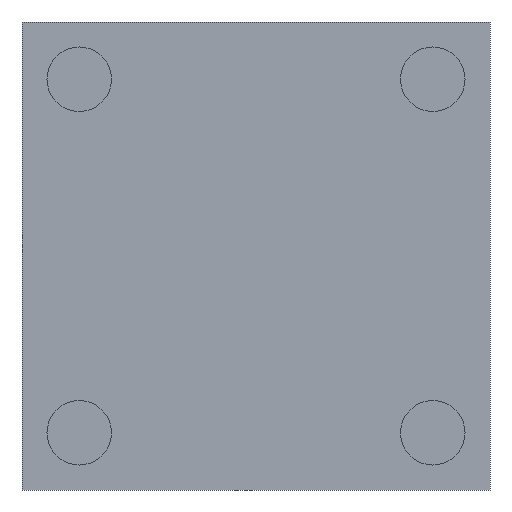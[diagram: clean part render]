
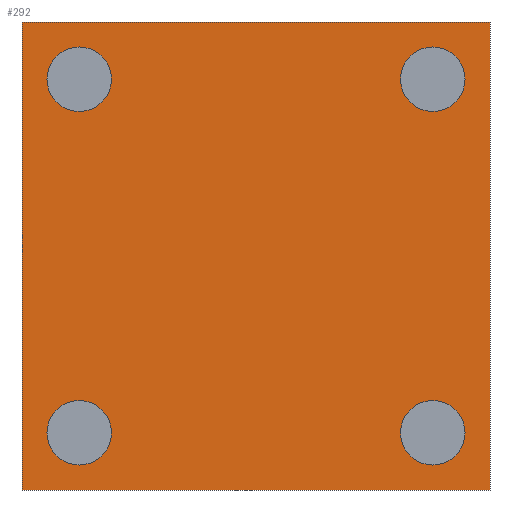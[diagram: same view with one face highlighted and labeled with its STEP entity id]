
A CAD part, front view. The second image highlights one B-rep face of the part: STEP entity #292.
In plain terms, the highlighted planar face has unit normal (0, -1, 0).
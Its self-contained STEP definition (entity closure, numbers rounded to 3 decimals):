
#1=CARTESIAN_POINT('',(17.,0.,17.));
#2=DIRECTION('',(0.,1.,0.));
#3=DIRECTION('',(-1.,0.,0.));
#4=AXIS2_PLACEMENT_3D('',#1,#2,#3);
#6=CARTESIAN_POINT('',(17.,0.,17.));
#7=DIRECTION('',(0.,1.,0.));
#8=DIRECTION('',(1.,0.,0.));
#9=AXIS2_PLACEMENT_3D('',#6,#7,#8);
#11=CARTESIAN_POINT('',(-17.,0.,17.));
#12=DIRECTION('',(0.,-1.,0.));
#13=DIRECTION('',(1.,0.,0.));
#14=AXIS2_PLACEMENT_3D('',#11,#12,#13);
#16=CARTESIAN_POINT('',(-17.,0.,17.));
#17=DIRECTION('',(0.,-1.,0.));
#18=DIRECTION('',(-1.,0.,0.));
#19=AXIS2_PLACEMENT_3D('',#16,#17,#18);
#21=CARTESIAN_POINT('',(-17.,0.,-17.));
#22=DIRECTION('',(0.,1.,0.));
#23=DIRECTION('',(1.,0.,0.));
#24=AXIS2_PLACEMENT_3D('',#21,#22,#23);
#26=CARTESIAN_POINT('',(-17.,0.,-17.));
#27=DIRECTION('',(0.,1.,0.));
#28=DIRECTION('',(-1.,0.,0.));
#29=AXIS2_PLACEMENT_3D('',#26,#27,#28);
#31=CARTESIAN_POINT('',(17.,0.,-17.));
#32=DIRECTION('',(0.,-1.,0.));
#33=DIRECTION('',(-1.,0.,0.));
#34=AXIS2_PLACEMENT_3D('',#31,#32,#33);
#36=CARTESIAN_POINT('',(17.,0.,-17.));
#37=DIRECTION('',(0.,-1.,0.));
#38=DIRECTION('',(1.,0.,0.));
#39=AXIS2_PLACEMENT_3D('',#36,#37,#38);
#132=CARTESIAN_POINT('',(-22.5,0.,22.5));
#134=DIRECTION('',(0.,0.,-1.));
#135=VECTOR('',#134,45.);
#136=CARTESIAN_POINT('',(-22.5,0.,22.5));
#137=LINE('',#136,#135);
#153=CARTESIAN_POINT('',(-22.5,0.,-22.5));
#155=DIRECTION('',(0.,0.,1.));
#156=VECTOR('',#155,45.);
#157=CARTESIAN_POINT('',(22.5,0.,-22.5));
#158=LINE('',#157,#156);
#174=CARTESIAN_POINT('',(22.5,0.,22.5));
#195=CARTESIAN_POINT('',(22.5,0.,-22.5));
#201=DIRECTION('',(1.,0.,0.));
#202=VECTOR('',#201,45.);
#203=CARTESIAN_POINT('',(-22.5,0.,22.5));
#204=LINE('',#203,#202);
#209=DIRECTION('',(1.,0.,0.));
#210=VECTOR('',#209,45.);
#211=CARTESIAN_POINT('',(-22.5,0.,-22.5));
#212=LINE('',#211,#210);
#214=VERTEX_POINT('',#195);
#219=CARTESIAN_POINT('',(13.9,0.,-17.));
#220=CARTESIAN_POINT('',(20.1,0.,-17.));
#221=VERTEX_POINT('',#219);
#222=VERTEX_POINT('',#220);
#224=VERTEX_POINT('',#153);
#229=CARTESIAN_POINT('',(-13.9,0.,-17.));
#230=CARTESIAN_POINT('',(-20.1,0.,-17.));
#231=VERTEX_POINT('',#229);
#232=VERTEX_POINT('',#230);
#234=VERTEX_POINT('',#174);
#239=CARTESIAN_POINT('',(13.9,0.,17.));
#240=CARTESIAN_POINT('',(20.1,0.,17.));
#241=VERTEX_POINT('',#239);
#242=VERTEX_POINT('',#240);
#244=VERTEX_POINT('',#132);
#249=CARTESIAN_POINT('',(-13.9,0.,17.));
#250=CARTESIAN_POINT('',(-20.1,0.,17.));
#251=VERTEX_POINT('',#249);
#252=VERTEX_POINT('',#250);
#253=CARTESIAN_POINT('',(0.,0.,0.));
#254=DIRECTION('',(0.,1.,0.));
#255=DIRECTION('',(1.,0.,0.));
#256=AXIS2_PLACEMENT_3D('',#253,#254,#255);
#257=PLANE('',#256);
#259=ORIENTED_EDGE('',*,*,#258,.F.);
#261=ORIENTED_EDGE('',*,*,#260,.T.);
#263=ORIENTED_EDGE('',*,*,#262,.F.);
#265=ORIENTED_EDGE('',*,*,#264,.F.);
#266=EDGE_LOOP('',(#259,#261,#263,#265));
#267=FACE_OUTER_BOUND('',#266,.F.);
#269=ORIENTED_EDGE('',*,*,#268,.F.);
#271=ORIENTED_EDGE('',*,*,#270,.F.);
#272=EDGE_LOOP('',(#269,#271));
#273=FACE_BOUND('',#272,.F.);
#275=ORIENTED_EDGE('',*,*,#274,.T.);
#277=ORIENTED_EDGE('',*,*,#276,.T.);
#278=EDGE_LOOP('',(#275,#277));
#279=FACE_BOUND('',#278,.F.);
#281=ORIENTED_EDGE('',*,*,#280,.F.);
#283=ORIENTED_EDGE('',*,*,#282,.F.);
#284=EDGE_LOOP('',(#281,#283));
#285=FACE_BOUND('',#284,.F.);
#287=ORIENTED_EDGE('',*,*,#286,.T.);
#289=ORIENTED_EDGE('',*,*,#288,.T.);
#290=EDGE_LOOP('',(#287,#289));
#291=FACE_BOUND('',#290,.F.);
#292=ADVANCED_FACE('',(#267,#273,#279,#285,#291),#257,.F.);
#5=CIRCLE('',#4,3.1);
#10=CIRCLE('',#9,3.1);
#15=CIRCLE('',#14,3.1);
#20=CIRCLE('',#19,3.1);
#25=CIRCLE('',#24,3.1);
#30=CIRCLE('',#29,3.1);
#35=CIRCLE('',#34,3.1);
#40=CIRCLE('',#39,3.1);
#258=EDGE_CURVE('',#244,#224,#137,.T.);
#260=EDGE_CURVE('',#244,#234,#204,.T.);
#262=EDGE_CURVE('',#214,#234,#158,.T.);
#264=EDGE_CURVE('',#224,#214,#212,.T.);
#268=EDGE_CURVE('',#241,#242,#5,.T.);
#270=EDGE_CURVE('',#242,#241,#10,.T.);
#274=EDGE_CURVE('',#251,#252,#15,.T.);
#276=EDGE_CURVE('',#252,#251,#20,.T.);
#280=EDGE_CURVE('',#231,#232,#25,.T.);
#282=EDGE_CURVE('',#232,#231,#30,.T.);
#286=EDGE_CURVE('',#221,#222,#35,.T.);
#288=EDGE_CURVE('',#222,#221,#40,.T.);
